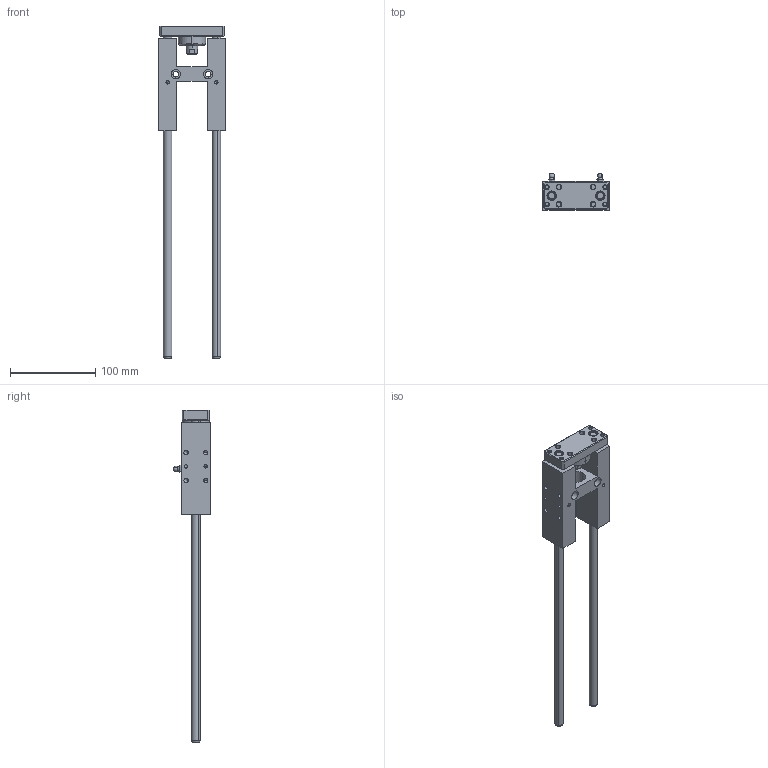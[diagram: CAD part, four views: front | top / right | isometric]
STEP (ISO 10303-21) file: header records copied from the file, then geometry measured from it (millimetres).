
FILE_DESCRIPTION (( 'STEP AP214' ), '1' );
FILE_NAME ('WHCR-025-0250 (3D).STEP', '2018-11-28T11:42:04', ( 'Hidtek' ), ( '' ), 'SwSTEP 2.0', 'SolidWorks 2016', '' );
FILE_SCHEMA (( 'AUTOMOTIVE_DESIGN' ));
Length unit declared in the file: millimetre
Products named in the file (4): Group1^WHCR-025-0250 (3D); WHCR-025-0250 (3D); Group2^WHCR-025-0250 (3D); Group3^WHCR-025-0250 (3D)
Assembly tree (3 placements, depth 2):
  WHCR-025-0250 (3D)
    Group1^WHCR-025-0250 (3D)
    Group2^WHCR-025-0250 (3D)
    Group3^WHCR-025-0250 (3D)
Bounding box: 78 x 43.05 x 389 mm (x, y, z)
Volume: 255730.4 mm3; surface area: 73316.6 mm2
Topology: 14 solids, 14 shells, 644 faces, 1608 edges, 1008 vertices
Faces by surface type: plane 324, cylinder 120, bspline 106, cone 94
Entity records: 25278 total; most frequent: CARTESIAN_POINT 9276, ORIENTED_EDGE 3128, DIRECTION 2798, EDGE_CURVE 1564, VERTEX_POINT 1008, LINE 978, VECTOR 978, AXIS2_PLACEMENT_3D 910
